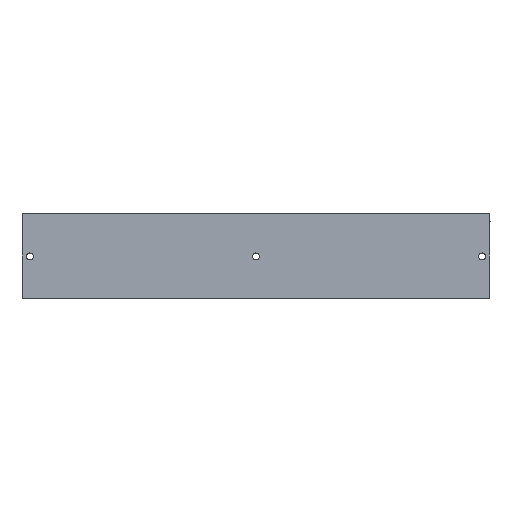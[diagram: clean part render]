
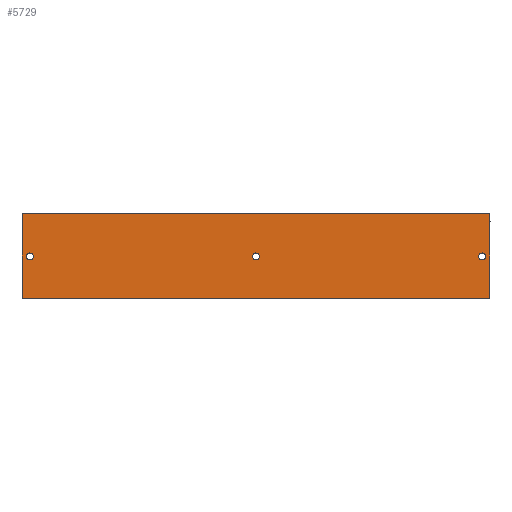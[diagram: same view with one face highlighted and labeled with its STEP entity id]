
A CAD part, front view. The second image highlights one B-rep face of the part: STEP entity #5729.
In plain terms, the highlighted planar face has unit normal (0, -1, 0).
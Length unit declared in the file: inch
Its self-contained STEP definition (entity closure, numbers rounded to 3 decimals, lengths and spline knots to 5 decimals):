
#585 = EDGE_LOOP ( 'NONE', ( #22572, #27773 ) ) ;
#864 = CIRCLE ( 'NONE', #16119, 0.164 ) ;
#2169 = CARTESIAN_POINT ( 'NONE',  ( 21.875, 0., -2.184 ) ) ;
#2597 = EDGE_CURVE ( 'NONE', #15985, #32542, #31279, .T. ) ;
#2916 = CARTESIAN_POINT ( 'NONE',  ( 21.875, 0., -2.02 ) ) ;
#3136 = DIRECTION ( 'NONE',  ( -1., 0., 0. ) ) ;
#3268 = VECTOR ( 'NONE', #35241, 39.37008 ) ;
#4123 = LINE ( 'NONE', #10391, #12368 ) ;
#4377 = ORIENTED_EDGE ( 'NONE', *, *, #27384, .T. ) ;
#5447 = CARTESIAN_POINT ( 'NONE',  ( 11.125, 0., -1.856 ) ) ;
#5467 = CARTESIAN_POINT ( 'NONE',  ( 22.25, 0., -4. ) ) ;
#5729 = ADVANCED_FACE ( 'NONE', ( #6415, #30436, #37369, #29525 ), #21448, .F. ) ;
#6023 = DIRECTION ( 'NONE',  ( 0., 0., 1. ) ) ;
#6101 = VERTEX_POINT ( 'NONE', #23468 ) ;
#6182 = CIRCLE ( 'NONE', #9242, 0.164 ) ;
#6290 = DIRECTION ( 'NONE',  ( 0., 0., 1. ) ) ;
#6386 = EDGE_LOOP ( 'NONE', ( #28119, #13664 ) ) ;
#6415 = FACE_BOUND ( 'NONE', #38748, .T. ) ;
#6447 = DIRECTION ( 'NONE',  ( 0., 1., 0. ) ) ;
#6528 = ORIENTED_EDGE ( 'NONE', *, *, #18298, .T. ) ;
#6676 = CIRCLE ( 'NONE', #10369, 0.164 ) ;
#6739 = EDGE_CURVE ( 'NONE', #16231, #6101, #19211, .T. ) ;
#9176 = DIRECTION ( 'NONE',  ( 0., 0., 1. ) ) ;
#9218 = DIRECTION ( 'NONE',  ( 0., 1., 0. ) ) ;
#9228 = CARTESIAN_POINT ( 'NONE',  ( 11.125, 0., -2.02 ) ) ;
#9242 = AXIS2_PLACEMENT_3D ( 'NONE', #24571, #6447, #27568 ) ;
#9293 = CARTESIAN_POINT ( 'NONE',  ( 0.375, 0., -2.02 ) ) ;
#9761 = VERTEX_POINT ( 'NONE', #20214 ) ;
#9919 = ORIENTED_EDGE ( 'NONE', *, *, #32547, .T. ) ;
#10368 = DIRECTION ( 'NONE',  ( 0., 1., 0. ) ) ;
#10369 = AXIS2_PLACEMENT_3D ( 'NONE', #28357, #10368, #31311 ) ;
#10391 = CARTESIAN_POINT ( 'NONE',  ( 0., 0., 0. ) ) ;
#11358 = VECTOR ( 'NONE', #3136, 39.37008 ) ;
#12366 = DIRECTION ( 'NONE',  ( 0., 0., 1. ) ) ;
#12368 = VECTOR ( 'NONE', #28505, 39.37008 ) ;
#12691 = CARTESIAN_POINT ( 'NONE',  ( 22.25, 0., -4. ) ) ;
#13305 = ORIENTED_EDGE ( 'NONE', *, *, #6739, .F. ) ;
#13664 = ORIENTED_EDGE ( 'NONE', *, *, #2597, .T. ) ;
#13783 = AXIS2_PLACEMENT_3D ( 'NONE', #2916, #24174, #6023 ) ;
#13831 = VERTEX_POINT ( 'NONE', #34015 ) ;
#13907 = EDGE_CURVE ( 'NONE', #32542, #15985, #864, .T. ) ;
#14942 = VERTEX_POINT ( 'NONE', #26274 ) ;
#15385 = CARTESIAN_POINT ( 'NONE',  ( 22.25, 0., 0. ) ) ;
#15985 = VERTEX_POINT ( 'NONE', #37189 ) ;
#16119 = AXIS2_PLACEMENT_3D ( 'NONE', #16581, #37367, #19614 ) ;
#16231 = VERTEX_POINT ( 'NONE', #5467 ) ;
#16581 = CARTESIAN_POINT ( 'NONE',  ( 0.375, 0., -2.02 ) ) ;
#16686 = EDGE_CURVE ( 'NONE', #37326, #16231, #26504, .T. ) ;
#17431 = EDGE_CURVE ( 'NONE', #36241, #14942, #18996, .T. ) ;
#17436 = CARTESIAN_POINT ( 'NONE',  ( 22.25, 0., 0. ) ) ;
#17501 = ORIENTED_EDGE ( 'NONE', *, *, #16686, .F. ) ;
#18298 = EDGE_CURVE ( 'NONE', #13831, #6101, #4123, .T. ) ;
#18391 = CARTESIAN_POINT ( 'NONE',  ( 0.375, 0., -1.856 ) ) ;
#18996 = CIRCLE ( 'NONE', #35898, 0.164 ) ;
#19211 = LINE ( 'NONE', #12691, #25277 ) ;
#19614 = DIRECTION ( 'NONE',  ( 0., 0., 1. ) ) ;
#20214 = CARTESIAN_POINT ( 'NONE',  ( 21.875, 0., -1.856 ) ) ;
#21448 = PLANE ( 'NONE',  #32892 ) ;
#22572 = ORIENTED_EDGE ( 'NONE', *, *, #30268, .T. ) ;
#23468 = CARTESIAN_POINT ( 'NONE',  ( 0., 0., -4. ) ) ;
#24010 = EDGE_CURVE ( 'NONE', #24692, #9761, #6182, .T. ) ;
#24174 = DIRECTION ( 'NONE',  ( 0., 1., 0. ) ) ;
#24412 = DIRECTION ( 'NONE',  ( 0., 1., 0. ) ) ;
#24571 = CARTESIAN_POINT ( 'NONE',  ( 21.875, 0., -2.02 ) ) ;
#24692 = VERTEX_POINT ( 'NONE', #2169 ) ;
#25277 = VECTOR ( 'NONE', #36487, 39.37008 ) ;
#25845 = CARTESIAN_POINT ( 'NONE',  ( 22.25, 0., 0. ) ) ;
#26274 = CARTESIAN_POINT ( 'NONE',  ( 11.125, 0., -2.184 ) ) ;
#26504 = LINE ( 'NONE', #17436, #3268 ) ;
#27324 = CIRCLE ( 'NONE', #13783, 0.164 ) ;
#27384 = EDGE_CURVE ( 'NONE', #14942, #36241, #6676, .T. ) ;
#27568 = DIRECTION ( 'NONE',  ( 0., 0., 1. ) ) ;
#27773 = ORIENTED_EDGE ( 'NONE', *, *, #24010, .T. ) ;
#28119 = ORIENTED_EDGE ( 'NONE', *, *, #13907, .T. ) ;
#28357 = CARTESIAN_POINT ( 'NONE',  ( 11.125, 0., -2.02 ) ) ;
#28505 = DIRECTION ( 'NONE',  ( 0., 0., -1. ) ) ;
#28945 = ORIENTED_EDGE ( 'NONE', *, *, #17431, .T. ) ;
#29525 = FACE_OUTER_BOUND ( 'NONE', #36890, .T. ) ;
#30247 = DIRECTION ( 'NONE',  ( 0., 1., 0. ) ) ;
#30258 = CARTESIAN_POINT ( 'NONE',  ( 22.25, 0., 0. ) ) ;
#30268 = EDGE_CURVE ( 'NONE', #9761, #24692, #27324, .T. ) ;
#30436 = FACE_BOUND ( 'NONE', #6386, .T. ) ;
#31279 = CIRCLE ( 'NONE', #36309, 0.164 ) ;
#31311 = DIRECTION ( 'NONE',  ( 0., 0., 1. ) ) ;
#32542 = VERTEX_POINT ( 'NONE', #18391 ) ;
#32547 = EDGE_CURVE ( 'NONE', #37326, #13831, #35134, .T. ) ;
#32892 = AXIS2_PLACEMENT_3D ( 'NONE', #30258, #24412, #6290 ) ;
#34015 = CARTESIAN_POINT ( 'NONE',  ( 0., 0., 0. ) ) ;
#35134 = LINE ( 'NONE', #15385, #11358 ) ;
#35241 = DIRECTION ( 'NONE',  ( 0., 0., -1. ) ) ;
#35898 = AXIS2_PLACEMENT_3D ( 'NONE', #9228, #30247, #12366 ) ;
#36241 = VERTEX_POINT ( 'NONE', #5447 ) ;
#36309 = AXIS2_PLACEMENT_3D ( 'NONE', #9293, #9218, #9176 ) ;
#36487 = DIRECTION ( 'NONE',  ( -1., 0., 0. ) ) ;
#36890 = EDGE_LOOP ( 'NONE', ( #6528, #13305, #17501, #9919 ) ) ;
#37189 = CARTESIAN_POINT ( 'NONE',  ( 0.375, 0., -2.184 ) ) ;
#37326 = VERTEX_POINT ( 'NONE', #25845 ) ;
#37367 = DIRECTION ( 'NONE',  ( 0., 1., 0. ) ) ;
#37369 = FACE_BOUND ( 'NONE', #585, .T. ) ;
#38748 = EDGE_LOOP ( 'NONE', ( #28945, #4377 ) ) ;
